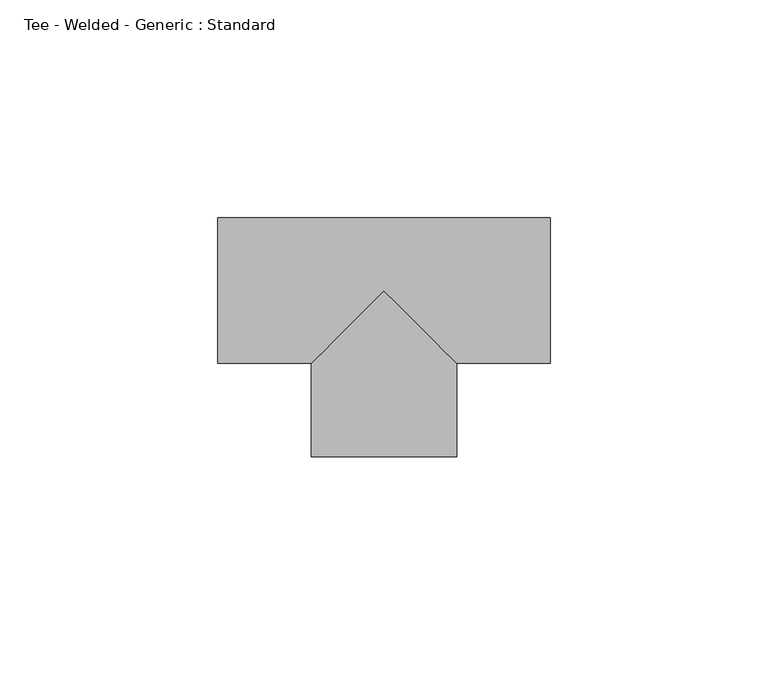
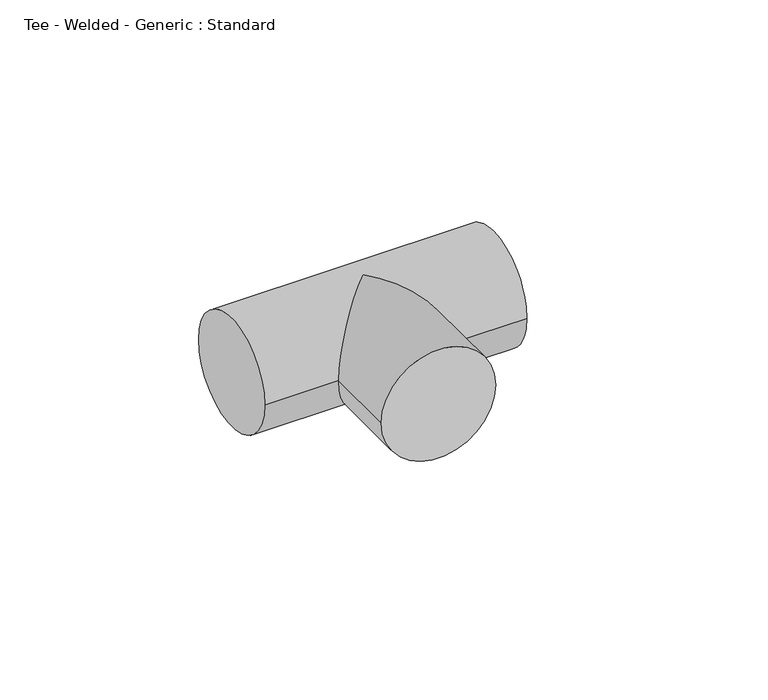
"""IFC4 building model written with IfcOpenShell, lengths in millimetres: pipe fitting geometry, Tee - Welded - Generic : Standard."""

import ifcopenshell
import ifcopenshell.guid

model = None  # the IFC model being written
_history = None  # IfcOwnerHistory: only IFC2X3 demands one
_inside = {}  # id of a spatial element -> (the spatial element, [elements in it])
_under = {}  # id of a project, library or spatial element -> (it, [spatial elements below it])
_declared = {}  # id of a project -> (the project, [libraries it declares])
_typed = {}  # id of a type object -> (the type object, [elements of that type])
_made_of = {}  # id of a material, layer set ... -> (it, [elements and type objects made of it])


def new_model(schema):
    """Start an empty IFC model of exactly this schema.

    Asked for "IFC4X3", IfcOpenShell would pick the latest addendum, in which some entities
    have other attributes; the version numbers below select the first issue.
    IFC2X3 requires an IfcOwnerHistory on every rooted entity: one is made here for all.
    """
    global model, _history
    if schema == "IFC4X3":
        model = ifcopenshell.file(schema_version=(4, 3, 0, 0))
    else:
        model = ifcopenshell.file(schema=schema)
    _inside.clear()
    _under.clear()
    _declared.clear()
    _typed.clear()
    _made_of.clear()
    _history = None
    if model.schema == "IFC2X3":
        org = make("IfcOrganization", Name="unknown")
        user = make(
            "IfcPersonAndOrganization",
            ThePerson=make("IfcPerson", FamilyName="unknown"),
            TheOrganization=org,
        )
        app = make(
            "IfcApplication",
            ApplicationDeveloper=org,
            Version="unknown",
            ApplicationFullName="unknown",
            ApplicationIdentifier="unknown",
        )
        _history = make(
            "IfcOwnerHistory",
            OwningUser=user,
            OwningApplication=app,
            ChangeAction="ADDED",
            CreationDate=0,
        )
    return model


def make(cls, **values):
    """One entity of the class cls with the attributes given. An attribute that is None is left unset."""
    return model.create_entity(
        cls, **{name: value for name, value in values.items() if value is not None}
    )


def rooted(cls, **values):
    """An entity with a GlobalId (a new one), such as an element, a storey or a relation."""
    return make(cls, GlobalId=ifcopenshell.guid.new(), OwnerHistory=_history, **values)


def si_unit(unit_type, name, prefix=None):
    """IfcSIUnit, for example si_unit("LENGTHUNIT", "METRE", prefix="MILLI")."""
    return make("IfcSIUnit", UnitType=unit_type, Prefix=prefix, Name=name)


def assignment(units):
    """IfcUnitAssignment: the units of a project."""
    return None if units is None else make("IfcUnitAssignment", Units=units)


def point(xyz):
    """IfcCartesianPoint."""
    return None if xyz is None else make("IfcCartesianPoint", Coordinates=xyz)


def direction(xyz):
    """IfcDirection."""
    return None if xyz is None else make("IfcDirection", DirectionRatios=xyz)


def frame(location, z_axis=None, x_axis=None):
    """IfcAxis2Placement3D, a coordinate frame: its origin and axes. An axis left out is left unset."""
    return make(
        "IfcAxis2Placement3D",
        Location=point(location),
        Axis=direction(z_axis),
        RefDirection=direction(x_axis),
    )


def origin():
    """The frame at (0, 0, 0) with its axes left unset."""
    return frame((0.0, 0.0, 0.0))


def place(relative_to, where):
    """IfcLocalPlacement: puts the frame where relative to a parent placement (None: the world)."""
    return make(
        "IfcLocalPlacement", PlacementRelTo=relative_to, RelativePlacement=where
    )


def context(
    kind, dimensions, precision=None, world=None, true_north=None, identifier=None
):
    """IfcGeometricRepresentationContext, for example the 3D "Model" context."""
    return make(
        "IfcGeometricRepresentationContext",
        ContextIdentifier=identifier,
        ContextType=kind,
        CoordinateSpaceDimension=dimensions,
        Precision=precision,
        WorldCoordinateSystem=world,
        TrueNorth=true_north,
    )


def project(units=None, contexts=None):
    """IfcProject with its units and contexts."""
    return rooted(
        "IfcProject",
        Name="project",
        RepresentationContexts=contexts,
        UnitsInContext=assignment(units),
    )


def spatial(cls, under=None, at=None, **own):
    """A site, building, storey or space (cls), placed at a placement, below another one or the project."""
    s = rooted(cls, ObjectPlacement=at, **own)
    if under is not None:
        _under.setdefault(under.id(), (under, []))[1].append(s)
    return s


def circle_curve(where, radius):
    """IfcCircle in the frame where."""
    return make("IfcCircle", Position=where, Radius=radius)


def ellipse_curve(where, semi_axis1, semi_axis2):
    """IfcEllipse in the frame where."""
    return make(
        "IfcEllipse", Position=where, SemiAxis1=semi_axis1, SemiAxis2=semi_axis2
    )


def shape(context_of_items, identifier, shape_type, items):
    """IfcShapeRepresentation: the items that make up one representation, for example the "Body"."""
    return make(
        "IfcShapeRepresentation",
        ContextOfItems=context_of_items,
        RepresentationIdentifier=identifier,
        RepresentationType=shape_type,
        Items=items,
    )


def source(mapping_origin, context_of_items, identifier, shape_type, items):
    """IfcRepresentationMap: a shape defined once, which mapped items show again and again."""
    return make(
        "IfcRepresentationMap",
        MappingOrigin=mapping_origin,
        MappedRepresentation=shape(context_of_items, identifier, shape_type, items),
    )


def transform(
    local_origin,
    x_axis=None,
    y_axis=None,
    z_axis=None,
    scale=None,
    scale2=None,
    scale3=None,
    uniform=True,
):
    """IfcCartesianTransformationOperator3D, or its non-uniform kind. x_axis, y_axis, z_axis: its Axis1, 2, 3."""
    if uniform:
        return make(
            "IfcCartesianTransformationOperator3D",
            Axis1=direction(x_axis),
            Axis2=direction(y_axis),
            LocalOrigin=point(local_origin),
            Scale=scale,
            Axis3=direction(z_axis),
        )
    return make(
        "IfcCartesianTransformationOperator3DnonUniform",
        Axis1=direction(x_axis),
        Axis2=direction(y_axis),
        LocalOrigin=point(local_origin),
        Scale=scale,
        Axis3=direction(z_axis),
        Scale2=scale2,
        Scale3=scale3,
    )


def mapped(mapping_source, mapping_target):
    """IfcMappedItem: shows the shape of a source again, moved by a transform."""
    return make(
        "IfcMappedItem", MappingSource=mapping_source, MappingTarget=mapping_target
    )


def made_of(thing, what):
    """Note that an element or type object is made of a material, layer set ...; save() writes the relation."""
    if what is not None:
        _made_of.setdefault(what.id(), (what, []))[1].append(thing)
    return thing


def element(
    cls,
    number,
    at=None,
    inside=None,
    cuts=None,
    type_object=None,
    material=None,
    context=None,
    identifier="Body",
    shape_type=None,
    held_by="IfcProductDefinitionShape",
    body=None,
    shapes=None,
    **own,
):
    """One element of the class cls, such as IfcWall. Its Tag is "e" and its number.

    at: its placement. inside: the storey or other place that contains it. cuts: it is an
    opening in that element (IfcRelVoidsElement). A single representation is given by context,
    identifier, shape_type and body (its items); several are given by shapes. held_by: the class
    of the entity that holds the representations. save() writes the other relations.
    """
    e = rooted(cls, Tag="e%d" % number, ObjectPlacement=at, **own)
    if body is not None:
        shapes = [shape(context, identifier, shape_type, body)]
    if shapes is not None:
        e.Representation = make(held_by, Representations=shapes)
    if inside is not None:
        _inside.setdefault(inside.id(), (inside, []))[1].append(e)
    if cuts is not None:
        rooted(
            "IfcRelVoidsElement", RelatingBuildingElement=cuts, RelatedOpeningElement=e
        )
    if type_object is not None:
        _typed.setdefault(type_object.id(), (type_object, []))[1].append(e)
    return made_of(e, material)


def aggregate(whole, parts):
    """IfcRelAggregates: a whole, such as a stair, and the parts it consists of."""
    return rooted("IfcRelAggregates", RelatingObject=whole, RelatedObjects=parts)


def save(model, path):
    """Write the relations noted so far, then the file.

    IfcRelAggregates (storeys below a building ...), IfcRelContainedInSpatialStructure (elements
    in a storey), IfcRelDefinesByType, IfcRelAssociatesMaterial and IfcRelDeclares: one each for
    every whole, place, type object, material and project.
    """
    for whole, parts in _under.values():
        aggregate(whole, parts)
    for where, things in _inside.values():
        rooted(
            "IfcRelContainedInSpatialStructure",
            RelatedElements=things,
            RelatingStructure=where,
        )
    for kind, things in _typed.values():
        rooted("IfcRelDefinesByType", RelatedObjects=things, RelatingType=kind)
    for what, things in _made_of.values():
        rooted("IfcRelAssociatesMaterial", RelatedObjects=things, RelatingMaterial=what)
    for by, libraries in _declared.values():
        rooted("IfcRelDeclares", RelatingContext=by, RelatedDefinitions=libraries)
    model.write(path)


def plane_surface(at):
    """IfcPlane: the flat surface through the origin of the frame at, square to its z axis."""
    return make("IfcPlane", Position=at)


def cylinder_surface(at, radius):
    """IfcCylindricalSurface: all points at the distance radius from the z axis of the frame at."""
    return make("IfcCylindricalSurface", Position=at, Radius=radius)


def advanced_brep(points, edges, surfaces, faces):
    """IfcAdvancedBrep: a solid bounded by faces that lie on surfaces and meet in shared edges.

    An edge is (start, end): straight between two places in points (the first is 0);
    or (start, end, curve); or (start, end, curve, False) where it runs against its curve.
    A face is (place in surfaces, loops), or (place, loops, False) where it looks against
    its surface's normal. A loop lists edges by number (the first is 1), with a minus sign
    where the edge is run from its end to its start. The first loop is the outer one.
    """
    corners = [point(p) for p in points]
    vertices = [make("IfcVertexPoint", VertexGeometry=c) for c in corners]
    made = []
    for start, end, *more in edges:
        made.append(
            make(
                "IfcEdgeCurve",
                EdgeStart=vertices[start],
                EdgeEnd=vertices[end],
                EdgeGeometry=more[0] if more else make("IfcPolyline", Points=[corners[start], corners[end]]),
                SameSense=more[1] if len(more) > 1 else True,
            )
        )
    hull = []
    for where, loops, *sense in faces:
        bounds = []
        for j, loop in enumerate(loops):
            ring = [make("IfcOrientedEdge", EdgeElement=made[abs(k) - 1], Orientation=k > 0) for k in loop]
            bounds.append(
                make(
                    "IfcFaceOuterBound" if j == 0 else "IfcFaceBound",
                    Bound=make("IfcEdgeLoop", EdgeList=ring),
                    Orientation=True,
                )
            )
        hull.append(make("IfcAdvancedFace", Bounds=bounds, FaceSurface=surfaces[where], SameSense=sense[0] if sense else True))
    return make("IfcAdvancedBrep", Outer=make("IfcClosedShell", CfsFaces=hull))


def tee_welded_generic_standard_c9f35e62(model_context):
    return source(origin(), model_context, "Body", "AdvancedBrep", [
        advanced_brep(
        [(-38.1, -16.66875, 0.0), (-38.1, 16.66875, 0.0), (38.1, -16.66875, 0.0), (38.1, 16.66875, 0.0), (-16.6652005, -16.66875, 0.0), (0.0, 0.0, 16.66875), (16.6723003, -16.66875, 0.0), (0.0, 0.0, -16.66875), (-16.6606355, -38.103549, 0.0), (16.6768637, -38.0964492, 0.0)],
        [
            (0, 1, circle_curve(frame((-38.1, 0.0, 0.0), z_axis=(-1.0, 0.0, 0.0), x_axis=(0.0, 1.0, 0.0)), 16.66875)),
            (1, 0, circle_curve(frame((-38.1, 0.0, 0.0), z_axis=(-1.0, 0.0, 0.0), x_axis=(0.0, 1.0, 0.0)), 16.66875)),
            (2, 3, circle_curve(frame((38.1, 0.0, 0.0), z_axis=(1.0, 0.0, 0.0), x_axis=(0.0, 1.0, 0.0)), 16.66875)),
            (3, 2, circle_curve(frame((38.1, 0.0, 0.0), z_axis=(1.0, 0.0, 0.0), x_axis=(0.0, 1.0, 0.0)), 16.66875)),
            (0, 4),
            (4, 5, ellipse_curve(frame((0.0, 0.0, 0.0), z_axis=(-0.7071820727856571, 0.7070314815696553, 0.0), x_axis=(-0.707031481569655, -0.7071820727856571, 0.0)), 23.5706626, 16.66875)),
            (5, 6, ellipse_curve(frame((0.0, 0.0, 0.0), z_axis=(0.7070314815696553, 0.7071820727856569, 0.0), x_axis=(-0.7071820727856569, 0.7070314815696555, 0.0)), 23.5756829, 16.66875)),
            (6, 2),
            (3, 1),
            (6, 7, ellipse_curve(frame((0.0, 0.0, 0.0), z_axis=(0.7070314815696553, 0.7071820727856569, 0.0), x_axis=(-0.7071820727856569, 0.7070314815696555, 0.0)), 23.5756829, 16.66875)),
            (7, 4, ellipse_curve(frame((0.0, 0.0, 0.0), z_axis=(-0.7071820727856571, 0.7070314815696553, 0.0), x_axis=(-0.707031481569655, -0.7071820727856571, 0.0)), 23.5706626, 16.66875)),
            (8, 9, circle_curve(frame((0.0081141, -38.0999991, 0.0), z_axis=(0.00021296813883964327, -0.9999999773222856, 0.0), x_axis=(0.9999999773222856, 0.00021296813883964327, 0.0)), 16.66875)),
            (9, 8, circle_curve(frame((0.0081141, -38.0999991, 0.0), z_axis=(0.00021296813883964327, -0.9999999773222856, 0.0), x_axis=(0.9999999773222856, 0.00021296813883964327, 0.0)), 16.66875)),
            (9, 6),
            (4, 8),
        ],
        [
            plane_surface(frame((-38.1, 0.0, 0.0), z_axis=(-1.0, 0.0, 0.0), x_axis=(0.0, 0.0, 1.0))),
            plane_surface(frame((38.1, 0.0, 0.0), z_axis=(1.0, 0.0, 0.0), x_axis=(0.0, 0.0, 1.0))),
            cylinder_surface(frame((-38.1, 0.0, 0.0), z_axis=(-1.0, 0.0, 0.0), x_axis=(0.0, 1.0, 0.0)), 16.66875),
            plane_surface(frame((0.0081141, -38.0999991, 0.0), z_axis=(0.00021296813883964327, -0.9999999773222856, 0.0), x_axis=(0.0, 0.0, 1.0))),
            cylinder_surface(frame((0.0, 0.0, 0.0), z_axis=(-0.00021296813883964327, 0.9999999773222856, 0.0), x_axis=(0.9999999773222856, 0.00021296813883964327, 0.0)), 16.66875),
        ],
        [
            (0, [[1, 2]]),
            (1, [[3, 4]]),
            (2, [[-1, 5, 6, 7, 8, -4, 9]]),
            (2, [[-2, -9, -3, -8, 10, 11, -5]]),
            (3, [[12, 13]]),
            (4, [[-13, 14, -7, -6, 15]]),
            (4, [[-12, -15, -11, -10, -14]]),
        ],
    ),
    ])


if __name__ == "__main__":
    model = new_model("IFC4")
    model_context = context("Model", 3, world=origin())
    ifc_project = project(units=[si_unit("LENGTHUNIT", "METRE", prefix="MILLI")], contexts=[model_context])
    site = spatial("IfcSite", under=ifc_project)
    building = spatial("IfcBuilding", under=site)
    placement = place(None, origin())
    tee_welded_generic_standard_shape = tee_welded_generic_standard_c9f35e62(model_context)
    element("IfcPipeFitting", 1, ObjectType="Tee - Welded - Generic : Standard", at=placement, inside=building, context=model_context, shape_type="MappedRepresentation", body=[
        mapped(tee_welded_generic_standard_shape, transform((0.0, 0.0, 0.0), x_axis=(1.0, 0.0, 0.0), y_axis=(0.0, 1.0, 0.0), z_axis=(0.0, 0.0, 1.0))),
    ])
    save(model, "model.ifc")
